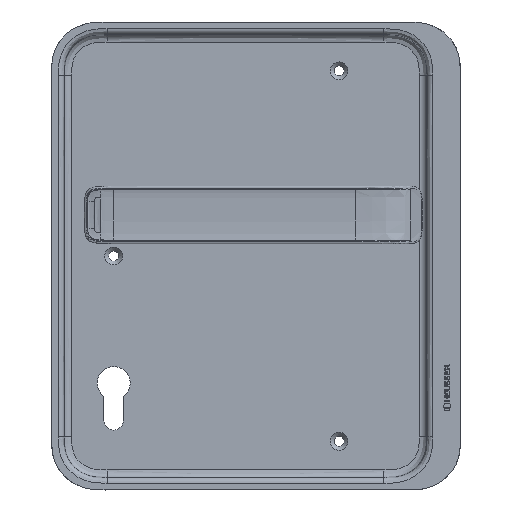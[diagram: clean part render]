
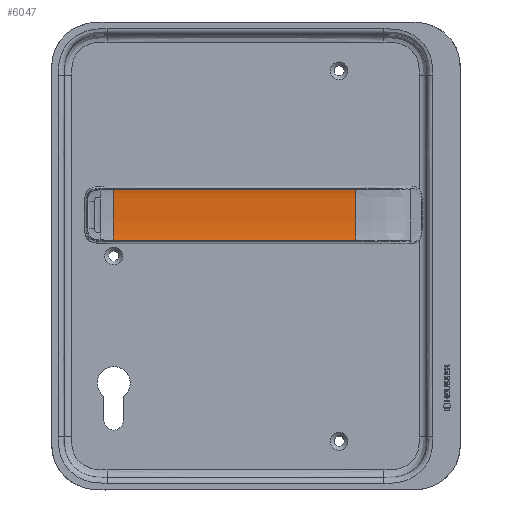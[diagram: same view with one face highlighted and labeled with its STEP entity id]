
A CAD part, top view. The second image highlights one B-rep face of the part: STEP entity #6047.
In plain terms, the highlighted free-form (B-spline) face has degree [1, 5] with [2, 6] control points.
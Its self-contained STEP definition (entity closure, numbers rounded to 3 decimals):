
#164=B_SPLINE_SURFACE_WITH_KNOTS('',1,5,((#18080,#18081,#18082,#18083,#18084,
#18085),(#18086,#18087,#18088,#18089,#18090,#18091)),.UNSPECIFIED.,.F.,
 .F.,.F.,(2,2),(6,6),(0.,1.),(0.,1.),.UNSPECIFIED.);
#417=B_SPLINE_CURVE_WITH_KNOTS('',3,(#14663,#14664,#14665,#14666,#14667,
#14668,#14669,#14670,#14671,#14672,#14673,#14674,#14675,#14676,#14677,#14678,
#14679,#14680,#14681,#14682,#14683,#14684,#14685,#14686,#14687,#14688,#14689,
#14690),.UNSPECIFIED.,.F.,.F.,(4,3,3,3,3,3,3,3,3,4),(3.015,3.808,
4.601,6.186,7.772,9.358,10.943,
12.529,14.115,15.703),.UNSPECIFIED.);
#423=B_SPLINE_CURVE_WITH_KNOTS('',5,(#14765,#14766,#14767,#14768,#14769,
#14770,#14771,#14772,#14773,#14774,#14775,#14776,#14777,#14778,#14779),
 .UNSPECIFIED.,.F.,.F.,(6,1,1,1,1,1,1,1,1,1,6),(20.644,20.647,
22.233,23.819,25.404,26.99,28.576,
30.161,31.747,32.54,33.333),
 .UNSPECIFIED.);
#478=B_SPLINE_CURVE_WITH_KNOTS('',5,(#17430,#17431,#17432,#17433,#17434,
#17435),.UNSPECIFIED.,.F.,.F.,(6,6),(0.014,0.986),
 .UNSPECIFIED.);
#495=B_SPLINE_CURVE_WITH_KNOTS('',5,(#18092,#18093,#18094,#18095,#18096,
#18097),.UNSPECIFIED.,.F.,.F.,(6,6),(0.014,0.986),
 .UNSPECIFIED.);
#1766=FACE_OUTER_BOUND('',#2171,.T.);
#2171=EDGE_LOOP('',(#5204,#5205,#5206,#5207));
#2738=VERTEX_POINT('',#14615);
#2739=VERTEX_POINT('',#14662);
#2744=VERTEX_POINT('',#14749);
#2745=VERTEX_POINT('',#14764);
#3505=EDGE_CURVE('',#2738,#2739,#417,.T.);
#3511=EDGE_CURVE('',#2744,#2745,#423,.T.);
#3581=EDGE_CURVE('',#2745,#2738,#478,.T.);
#3620=EDGE_CURVE('',#2744,#2739,#495,.T.);
#5204=ORIENTED_EDGE('',*,*,#3581,.F.);
#5205=ORIENTED_EDGE('',*,*,#3511,.F.);
#5206=ORIENTED_EDGE('',*,*,#3620,.T.);
#5207=ORIENTED_EDGE('',*,*,#3505,.F.);
#6047=ADVANCED_FACE('',(#1766),#164,.T.);
#14615=CARTESIAN_POINT('',(62.397,21.855,14.439));
#14662=CARTESIAN_POINT('',(-64.454,21.855,14.44));
#14663=CARTESIAN_POINT('Ctrl Pts',(62.397,21.855,14.439));
#14664=CARTESIAN_POINT('Ctrl Pts',(59.754,21.855,14.439));
#14665=CARTESIAN_POINT('Ctrl Pts',(57.111,21.855,14.439));
#14666=CARTESIAN_POINT('Ctrl Pts',(54.468,21.855,14.439));
#14667=CARTESIAN_POINT('Ctrl Pts',(51.826,21.855,14.439));
#14668=CARTESIAN_POINT('Ctrl Pts',(49.184,21.855,14.439));
#14669=CARTESIAN_POINT('Ctrl Pts',(46.541,21.855,14.439));
#14670=CARTESIAN_POINT('Ctrl Pts',(41.256,21.855,14.439));
#14671=CARTESIAN_POINT('Ctrl Pts',(35.969,21.855,14.439));
#14672=CARTESIAN_POINT('Ctrl Pts',(30.683,21.855,14.439));
#14673=CARTESIAN_POINT('Ctrl Pts',(25.397,21.855,14.439));
#14674=CARTESIAN_POINT('Ctrl Pts',(20.113,21.855,14.439));
#14675=CARTESIAN_POINT('Ctrl Pts',(14.828,21.855,14.439));
#14676=CARTESIAN_POINT('Ctrl Pts',(9.544,21.855,14.439));
#14677=CARTESIAN_POINT('Ctrl Pts',(4.259,21.855,14.439));
#14678=CARTESIAN_POINT('Ctrl Pts',(-1.027,21.855,14.439));
#14679=CARTESIAN_POINT('Ctrl Pts',(-6.314,21.855,14.439));
#14680=CARTESIAN_POINT('Ctrl Pts',(-11.601,21.855,14.44));
#14681=CARTESIAN_POINT('Ctrl Pts',(-16.887,21.855,14.44));
#14682=CARTESIAN_POINT('Ctrl Pts',(-22.173,21.855,14.44));
#14683=CARTESIAN_POINT('Ctrl Pts',(-27.456,21.855,14.44));
#14684=CARTESIAN_POINT('Ctrl Pts',(-32.739,21.855,14.44));
#14685=CARTESIAN_POINT('Ctrl Pts',(-38.022,21.855,14.44));
#14686=CARTESIAN_POINT('Ctrl Pts',(-43.308,21.855,14.44));
#14687=CARTESIAN_POINT('Ctrl Pts',(-48.599,21.855,14.44));
#14688=CARTESIAN_POINT('Ctrl Pts',(-53.901,21.855,14.44));
#14689=CARTESIAN_POINT('Ctrl Pts',(-59.215,21.854,14.44));
#14690=CARTESIAN_POINT('Ctrl Pts',(-64.454,21.855,14.44));
#14749=CARTESIAN_POINT('',(-64.463,48.367,14.44));
#14764=CARTESIAN_POINT('',(62.397,48.367,14.439));
#14765=CARTESIAN_POINT('Ctrl Pts',(-64.463,48.367,14.44));
#14766=CARTESIAN_POINT('Ctrl Pts',(-64.455,48.367,14.44));
#14767=CARTESIAN_POINT('Ctrl Pts',(-61.31,48.368,14.44));
#14768=CARTESIAN_POINT('Ctrl Pts',(-54.974,48.367,14.44));
#14769=CARTESIAN_POINT('Ctrl Pts',(-45.42,48.368,14.44));
#14770=CARTESIAN_POINT('Ctrl Pts',(-32.741,48.367,14.44));
#14771=CARTESIAN_POINT('Ctrl Pts',(-16.891,48.367,14.439));
#14772=CARTESIAN_POINT('Ctrl Pts',(-1.024,48.367,14.44));
#14773=CARTESIAN_POINT('Ctrl Pts',(14.829,48.367,14.439));
#14774=CARTESIAN_POINT('Ctrl Pts',(29.096,48.367,14.44));
#14775=CARTESIAN_POINT('Ctrl Pts',(41.786,48.367,14.439));
#14776=CARTESIAN_POINT('Ctrl Pts',(51.299,48.367,14.44));
#14777=CARTESIAN_POINT('Ctrl Pts',(57.64,48.367,14.439));
#14778=CARTESIAN_POINT('Ctrl Pts',(60.811,48.367,14.44));
#14779=CARTESIAN_POINT('Ctrl Pts',(62.397,48.367,14.439));
#17430=CARTESIAN_POINT('Ctrl Pts',(62.397,48.367,14.439));
#17431=CARTESIAN_POINT('Ctrl Pts',(62.397,46.219,13.823));
#17432=CARTESIAN_POINT('Ctrl Pts',(62.397,39.34,13.515));
#17433=CARTESIAN_POINT('Ctrl Pts',(62.397,30.883,13.515));
#17434=CARTESIAN_POINT('Ctrl Pts',(62.397,24.003,13.823));
#17435=CARTESIAN_POINT('Ctrl Pts',(62.397,21.855,14.439));
#18080=CARTESIAN_POINT('Ctrl Pts',(62.397,48.511,14.484));
#18081=CARTESIAN_POINT('Ctrl Pts',(62.397,46.584,13.832));
#18082=CARTESIAN_POINT('Ctrl Pts',(62.397,39.508,13.506));
#18083=CARTESIAN_POINT('Ctrl Pts',(62.397,30.715,13.506));
#18084=CARTESIAN_POINT('Ctrl Pts',(62.397,23.638,13.832));
#18085=CARTESIAN_POINT('Ctrl Pts',(62.397,21.711,14.484));
#18086=CARTESIAN_POINT('Ctrl Pts',(-64.471,48.511,14.484));
#18087=CARTESIAN_POINT('Ctrl Pts',(-64.473,46.585,13.832));
#18088=CARTESIAN_POINT('Ctrl Pts',(-64.474,39.508,13.506));
#18089=CARTESIAN_POINT('Ctrl Pts',(-64.474,30.715,13.506));
#18090=CARTESIAN_POINT('Ctrl Pts',(-64.473,23.638,13.832));
#18091=CARTESIAN_POINT('Ctrl Pts',(-64.471,21.711,14.484));
#18092=CARTESIAN_POINT('Ctrl Pts',(-64.454,48.367,14.44));
#18093=CARTESIAN_POINT('Ctrl Pts',(-64.456,46.218,13.823));
#18094=CARTESIAN_POINT('Ctrl Pts',(-64.457,39.339,13.515));
#18095=CARTESIAN_POINT('Ctrl Pts',(-64.457,30.883,13.515));
#18096=CARTESIAN_POINT('Ctrl Pts',(-64.456,24.004,13.823));
#18097=CARTESIAN_POINT('Ctrl Pts',(-64.454,21.855,14.44));
